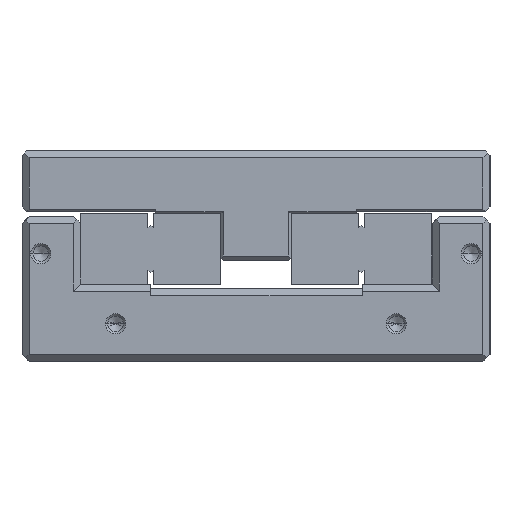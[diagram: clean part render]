
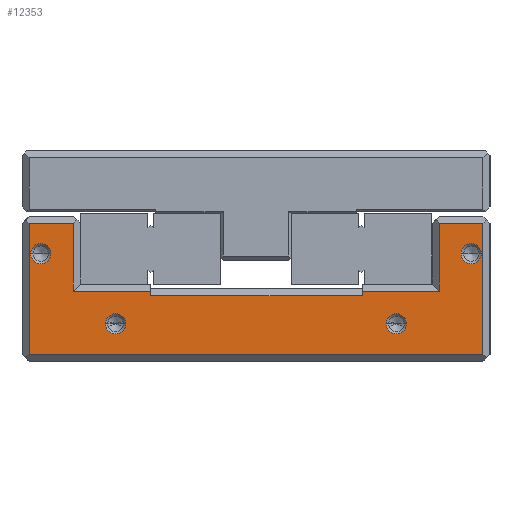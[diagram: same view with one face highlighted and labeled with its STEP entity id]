
A CAD part, left-side view. The second image highlights one B-rep face of the part: STEP entity #12353.
In plain terms, the highlighted planar face has unit normal (-1, 0, 0).
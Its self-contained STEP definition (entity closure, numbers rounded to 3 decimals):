
#8814=CARTESIAN_POINT('',(-130.,-46.,23.));
#8815=DIRECTION('',(1.,0.,0.));
#8816=DIRECTION('',(0.,-1.,0.));
#8817=AXIS2_PLACEMENT_3D('',#8814,#8815,#8816);
#8819=CARTESIAN_POINT('',(-130.,-46.,23.));
#8820=DIRECTION('',(1.,0.,0.));
#8821=DIRECTION('',(0.,1.,0.));
#8822=AXIS2_PLACEMENT_3D('',#8819,#8820,#8821);
#8824=CARTESIAN_POINT('',(-130.,-30.,8.));
#8825=DIRECTION('',(1.,0.,0.));
#8826=DIRECTION('',(0.,-1.,0.));
#8827=AXIS2_PLACEMENT_3D('',#8824,#8825,#8826);
#8829=CARTESIAN_POINT('',(-130.,-30.,8.));
#8830=DIRECTION('',(1.,0.,0.));
#8831=DIRECTION('',(0.,1.,0.));
#8832=AXIS2_PLACEMENT_3D('',#8829,#8830,#8831);
#8834=CARTESIAN_POINT('',(-130.,30.,8.));
#8835=DIRECTION('',(1.,0.,0.));
#8836=DIRECTION('',(0.,-1.,0.));
#8837=AXIS2_PLACEMENT_3D('',#8834,#8835,#8836);
#8839=CARTESIAN_POINT('',(-130.,30.,8.));
#8840=DIRECTION('',(1.,0.,0.));
#8841=DIRECTION('',(0.,1.,0.));
#8842=AXIS2_PLACEMENT_3D('',#8839,#8840,#8841);
#8844=CARTESIAN_POINT('',(-130.,46.,23.));
#8845=DIRECTION('',(1.,0.,0.));
#8846=DIRECTION('',(0.,1.,0.));
#8847=AXIS2_PLACEMENT_3D('',#8844,#8845,#8846);
#8849=CARTESIAN_POINT('',(-130.,46.,23.));
#8850=DIRECTION('',(1.,0.,0.));
#8851=DIRECTION('',(0.,-1.,0.));
#8852=AXIS2_PLACEMENT_3D('',#8849,#8850,#8851);
#8854=DIRECTION('',(0.,1.,0.));
#8855=VECTOR('',#8854,45.2);
#8856=CARTESIAN_POINT('',(-130.,-22.7,14.));
#8857=LINE('',#8856,#8855);
#8858=DIRECTION('',(0.,0.,1.));
#8859=VECTOR('',#8858,1.);
#8860=CARTESIAN_POINT('',(-130.,-22.7,14.));
#8861=LINE('',#8860,#8859);
#8862=DIRECTION('',(0.,1.,0.));
#8863=VECTOR('',#8862,16.5);
#8864=CARTESIAN_POINT('',(-130.,-39.2,15.));
#8865=LINE('',#8864,#8863);
#8866=DIRECTION('',(0.,0.,-1.));
#8867=VECTOR('',#8866,14.5);
#8868=CARTESIAN_POINT('',(-130.,-39.2,29.5));
#8869=LINE('',#8868,#8867);
#8870=DIRECTION('',(0.,-1.,0.));
#8871=VECTOR('',#8870,9.3);
#8872=CARTESIAN_POINT('',(-130.,-39.2,29.5));
#8873=LINE('',#8872,#8871);
#8874=DIRECTION('',(0.,0.,-1.));
#8875=VECTOR('',#8874,28.);
#8876=CARTESIAN_POINT('',(-130.,-48.5,29.5));
#8877=LINE('',#8876,#8875);
#8878=DIRECTION('',(0.,1.,0.));
#8879=VECTOR('',#8878,97.);
#8880=CARTESIAN_POINT('',(-130.,-48.5,1.5));
#8881=LINE('',#8880,#8879);
#8882=DIRECTION('',(0.,0.,-1.));
#8883=VECTOR('',#8882,28.);
#8884=CARTESIAN_POINT('',(-130.,48.5,29.5));
#8885=LINE('',#8884,#8883);
#8886=DIRECTION('',(0.,-1.,0.));
#8887=VECTOR('',#8886,9.5);
#8888=CARTESIAN_POINT('',(-130.,48.5,29.5));
#8889=LINE('',#8888,#8887);
#8890=DIRECTION('',(0.,0.,1.));
#8891=VECTOR('',#8890,14.5);
#8892=CARTESIAN_POINT('',(-130.,39.,15.));
#8893=LINE('',#8892,#8891);
#8894=DIRECTION('',(0.,1.,0.));
#8895=VECTOR('',#8894,16.5);
#8896=CARTESIAN_POINT('',(-130.,22.5,15.));
#8897=LINE('',#8896,#8895);
#8898=DIRECTION('',(0.,0.,-1.));
#8899=VECTOR('',#8898,1.);
#8900=CARTESIAN_POINT('',(-130.,22.5,15.));
#8901=LINE('',#8900,#8899);
#10440=CARTESIAN_POINT('',(-130.,-48.15,23.));
#10441=CARTESIAN_POINT('',(-130.,-43.85,23.));
#10442=VERTEX_POINT('',#10440);
#10443=VERTEX_POINT('',#10441);
#10448=CARTESIAN_POINT('',(-130.,-32.15,8.));
#10449=CARTESIAN_POINT('',(-130.,-27.85,8.));
#10450=VERTEX_POINT('',#10448);
#10451=VERTEX_POINT('',#10449);
#10456=CARTESIAN_POINT('',(-130.,27.85,8.));
#10457=CARTESIAN_POINT('',(-130.,32.15,8.));
#10458=VERTEX_POINT('',#10456);
#10459=VERTEX_POINT('',#10457);
#10464=CARTESIAN_POINT('',(-130.,48.15,23.));
#10465=CARTESIAN_POINT('',(-130.,43.85,23.));
#10466=VERTEX_POINT('',#10464);
#10467=VERTEX_POINT('',#10465);
#10528=CARTESIAN_POINT('',(-130.,-22.7,14.));
#10529=CARTESIAN_POINT('',(-130.,22.5,14.));
#10530=VERTEX_POINT('',#10528);
#10531=VERTEX_POINT('',#10529);
#10532=CARTESIAN_POINT('',(-130.,-22.7,15.));
#10533=VERTEX_POINT('',#10532);
#10534=CARTESIAN_POINT('',(-130.,22.5,15.));
#10535=VERTEX_POINT('',#10534);
#10536=CARTESIAN_POINT('',(-130.,-48.5,1.5));
#10537=CARTESIAN_POINT('',(-130.,48.5,1.5));
#10538=VERTEX_POINT('',#10536);
#10539=VERTEX_POINT('',#10537);
#10544=CARTESIAN_POINT('',(-130.,-39.2,29.5));
#10545=CARTESIAN_POINT('',(-130.,-48.5,29.5));
#10546=VERTEX_POINT('',#10544);
#10547=VERTEX_POINT('',#10545);
#10556=CARTESIAN_POINT('',(-130.,-39.2,15.));
#10557=VERTEX_POINT('',#10556);
#10560=CARTESIAN_POINT('',(-130.,39.,15.));
#10561=VERTEX_POINT('',#10560);
#10566=CARTESIAN_POINT('',(-130.,39.,29.5));
#10567=VERTEX_POINT('',#10566);
#10570=CARTESIAN_POINT('',(-130.,48.5,29.5));
#10571=VERTEX_POINT('',#10570);
#12302=CARTESIAN_POINT('',(-130.,50.,0.));
#12303=DIRECTION('',(-1.,0.,0.));
#12304=DIRECTION('',(0.,-1.,0.));
#12305=AXIS2_PLACEMENT_3D('',#12302,#12303,#12304);
#12306=PLANE('',#12305);
#12308=ORIENTED_EDGE('',*,*,#12307,.F.);
#12309=ORIENTED_EDGE('',*,*,#11584,.T.);
#12310=ORIENTED_EDGE('',*,*,#11537,.F.);
#12312=ORIENTED_EDGE('',*,*,#12311,.F.);
#12314=ORIENTED_EDGE('',*,*,#12313,.T.);
#12316=ORIENTED_EDGE('',*,*,#12315,.T.);
#12318=ORIENTED_EDGE('',*,*,#12317,.T.);
#12320=ORIENTED_EDGE('',*,*,#12319,.F.);
#12322=ORIENTED_EDGE('',*,*,#12321,.T.);
#12324=ORIENTED_EDGE('',*,*,#12323,.F.);
#12325=ORIENTED_EDGE('',*,*,#12293,.F.);
#12326=ORIENTED_EDGE('',*,*,#11792,.T.);
#12327=EDGE_LOOP('',(#12308,#12309,#12310,#12312,#12314,#12316,#12318,#12320,
#12322,#12324,#12325,#12326));
#12328=FACE_OUTER_BOUND('',#12327,.F.);
#12330=ORIENTED_EDGE('',*,*,#12329,.F.);
#12332=ORIENTED_EDGE('',*,*,#12331,.F.);
#12333=EDGE_LOOP('',(#12330,#12332));
#12334=FACE_BOUND('',#12333,.F.);
#12336=ORIENTED_EDGE('',*,*,#12335,.F.);
#12338=ORIENTED_EDGE('',*,*,#12337,.F.);
#12339=EDGE_LOOP('',(#12336,#12338));
#12340=FACE_BOUND('',#12339,.F.);
#12342=ORIENTED_EDGE('',*,*,#12341,.F.);
#12344=ORIENTED_EDGE('',*,*,#12343,.F.);
#12345=EDGE_LOOP('',(#12342,#12344));
#12346=FACE_BOUND('',#12345,.F.);
#12348=ORIENTED_EDGE('',*,*,#12347,.F.);
#12350=ORIENTED_EDGE('',*,*,#12349,.F.);
#12351=EDGE_LOOP('',(#12348,#12350));
#12352=FACE_BOUND('',#12351,.F.);
#12353=ADVANCED_FACE('',(#12328,#12334,#12340,#12346,#12352),#12306,.T.);
#8818=CIRCLE('',#8817,2.15);
#8823=CIRCLE('',#8822,2.15);
#8828=CIRCLE('',#8827,2.15);
#8833=CIRCLE('',#8832,2.15);
#8838=CIRCLE('',#8837,2.15);
#8843=CIRCLE('',#8842,2.15);
#8848=CIRCLE('',#8847,2.15);
#8853=CIRCLE('',#8852,2.15);
#11537=EDGE_CURVE('',#10557,#10533,#8865,.T.);
#11584=EDGE_CURVE('',#10530,#10533,#8861,.T.);
#11792=EDGE_CURVE('',#10535,#10531,#8901,.T.);
#12293=EDGE_CURVE('',#10535,#10561,#8897,.T.);
#12307=EDGE_CURVE('',#10530,#10531,#8857,.T.);
#12311=EDGE_CURVE('',#10546,#10557,#8869,.T.);
#12313=EDGE_CURVE('',#10546,#10547,#8873,.T.);
#12315=EDGE_CURVE('',#10547,#10538,#8877,.T.);
#12317=EDGE_CURVE('',#10538,#10539,#8881,.T.);
#12319=EDGE_CURVE('',#10571,#10539,#8885,.T.);
#12321=EDGE_CURVE('',#10571,#10567,#8889,.T.);
#12323=EDGE_CURVE('',#10561,#10567,#8893,.T.);
#12329=EDGE_CURVE('',#10450,#10451,#8828,.T.);
#12331=EDGE_CURVE('',#10451,#10450,#8833,.T.);
#12335=EDGE_CURVE('',#10458,#10459,#8838,.T.);
#12337=EDGE_CURVE('',#10459,#10458,#8843,.T.);
#12341=EDGE_CURVE('',#10466,#10467,#8848,.T.);
#12343=EDGE_CURVE('',#10467,#10466,#8853,.T.);
#12347=EDGE_CURVE('',#10442,#10443,#8818,.T.);
#12349=EDGE_CURVE('',#10443,#10442,#8823,.T.);
